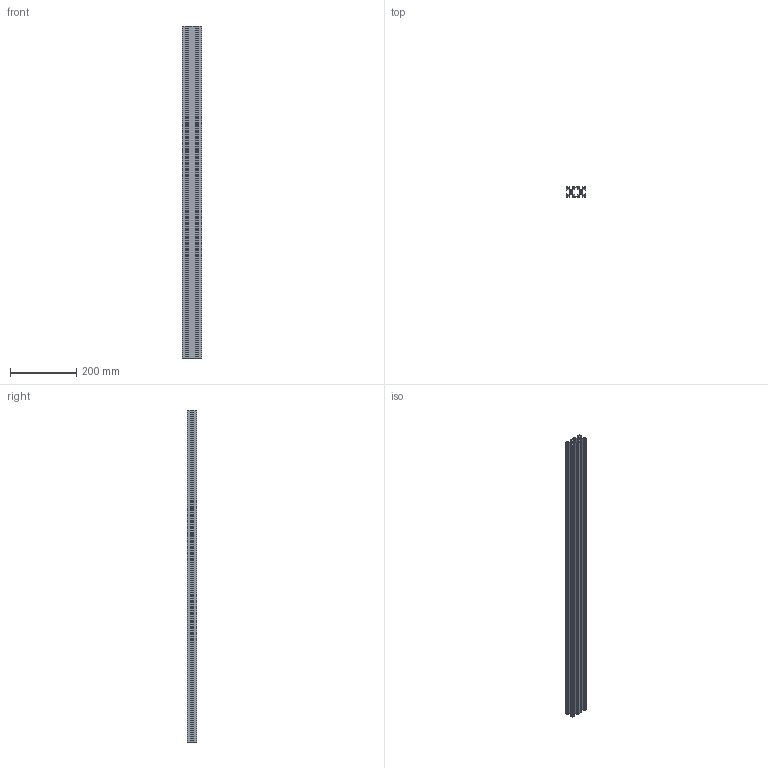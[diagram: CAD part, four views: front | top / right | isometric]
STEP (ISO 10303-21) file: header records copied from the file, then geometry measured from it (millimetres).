
FILE_DESCRIPTION (( 'STEP AP214' ), '1' );
FILE_NAME ('OB-3060L_STEP.STEP', '2015-09-15T12:20:44', ( '' ), ( '' ), 'SwSTEP 2.0', 'SolidWorks 2014', '' );
FILE_SCHEMA (( 'AUTOMOTIVE_DESIGN' ));
Length unit declared in the file: millimetre
Products named in the file (1): OB-3060L_STEP
Bounding box: 60 x 30 x 1000 mm (x, y, z)
Volume: 509932.1 mm3; surface area: 588889.8 mm2
Topology: 1 solids, 1 shells, 196 faces, 582 edges, 388 vertices
Faces by surface type: plane 166, cylinder 30
Entity records: 6548 total; most frequent: CARTESIAN_POINT 1167, ORIENTED_EDGE 1164, DIRECTION 1036, EDGE_CURVE 582, LINE 522, VECTOR 522, VERTEX_POINT 388, AXIS2_PLACEMENT_3D 257
